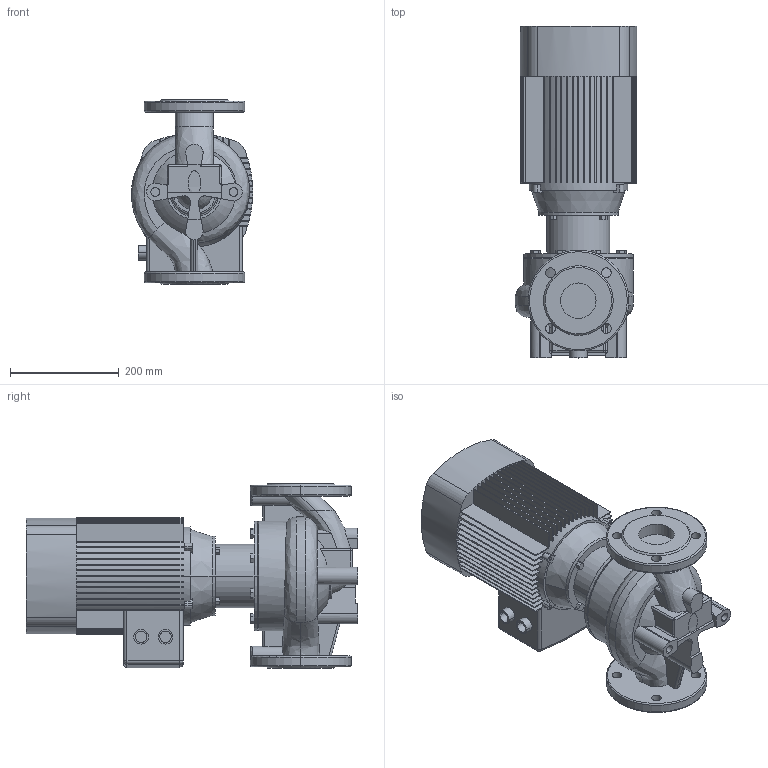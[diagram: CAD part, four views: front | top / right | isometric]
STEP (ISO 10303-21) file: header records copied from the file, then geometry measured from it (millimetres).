
FILE_DESCRIPTION (( 'STEP AP203' ), '1' );
FILE_NAME ('TD65-22G_2.STEP', '2022-05-02T18:50:36', ( '' ), ( '' ), 'SwSTEP 2.0', 'SolidWorks 2019', '' );
FILE_SCHEMA (( 'CONFIG_CONTROL_DESIGN' ));
Length unit declared in the file: millimetre
Products named in the file (4): Pr_ch 65_TD65-22G_2; TD65-22G_2; Fon_65_TD65-22G_2; ED_B14_YE2-112M-2 (4)
Assembly tree (3 placements, depth 2):
  TD65-22G_2
    Pr_ch 65_TD65-22G_2
    Fon_65_TD65-22G_2
    ED_B14_YE2-112M-2 (4)
Bounding box: 222.85 x 610 x 340 mm (x, y, z)
Volume: 18352550.3 mm3; surface area: 1213586.7 mm2
Topology: 3 solids, 5 shells, 654 faces, 1771 edges, 1162 vertices
Faces by surface type: plane 429, cylinder 157, bspline 26, torus 25, cone 11, sphere 6
Entity records: 26942 total; most frequent: CARTESIAN_POINT 9904, ORIENTED_EDGE 3538, DIRECTION 3446, EDGE_CURVE 1769, AXIS2_PLACEMENT_3D 1213, VERTEX_POINT 1162, LINE 1020, VECTOR 1020
